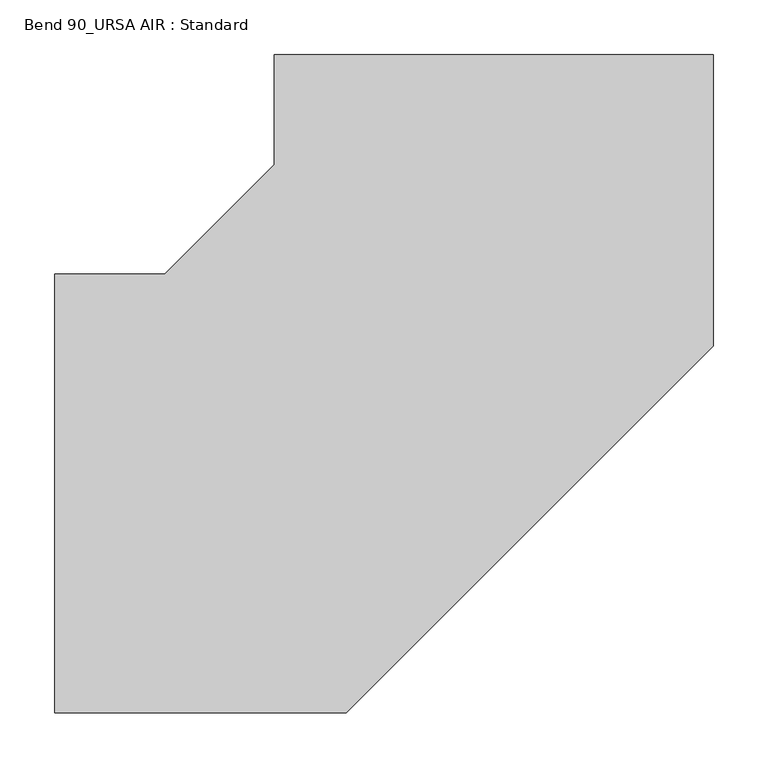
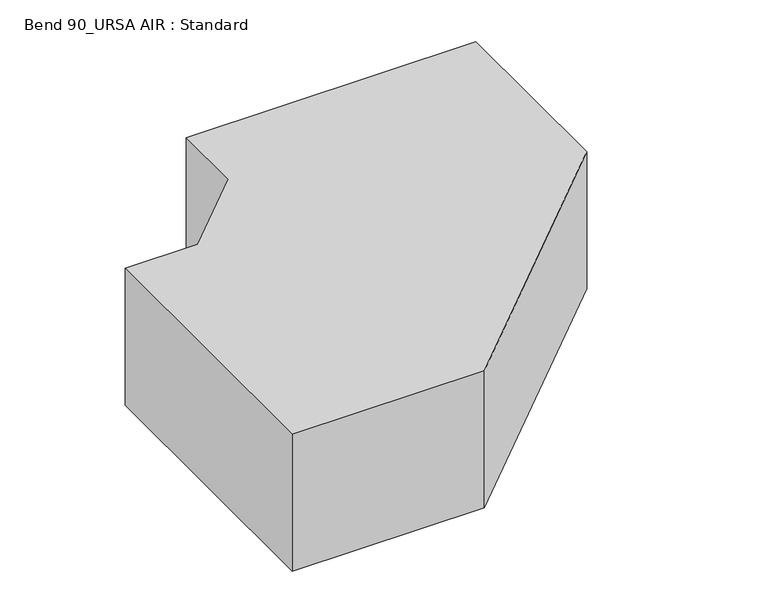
"""IFC4 building model written with IfcOpenShell, lengths in millimetres: duct fitting geometry, Bend 90_URSA AIR : Standard."""

from ifc_helpers import new_model, si_unit, frame, origin, place, context, project, spatial, polyline, outline, extrude, source, transform, mapped, element, save


def bend_90_ursa_air_standard_de543af3(model_context):
    return source(origin(), model_context, "Body", "SweptSolid", [
        extrude(outline(polyline([(-400.0, -200.0), (-400.0, 200.0), (-299.9848989, 200.0), (-200.0, 299.9848989), (-200.0, 400.0), (200.0, 400.0), (200.0, 134.2994739), (-134.2994739, -200.0), (-400.0, -200.0)])), frame((0.0, 0.0, -100.0), z_axis=(0.0, 0.0, 1.0), x_axis=(1.0, 0.0, 0.0)), (0.0, 0.0, 1.0), 200.0),
    ])


if __name__ == "__main__":
    model = new_model("IFC4")
    model_context = context("Model", 3, world=origin())
    ifc_project = project(units=[si_unit("LENGTHUNIT", "METRE", prefix="MILLI")], contexts=[model_context])
    site = spatial("IfcSite", under=ifc_project)
    building = spatial("IfcBuilding", under=site)
    placement = place(None, origin())
    bend_90_ursa_air_standard_shape = bend_90_ursa_air_standard_de543af3(model_context)
    element("IfcDuctFitting", 1, ObjectType="Bend 90_URSA AIR : Standard", at=placement, inside=building, context=model_context, shape_type="MappedRepresentation", body=[
        mapped(bend_90_ursa_air_standard_shape, transform((0.0, 0.0, 0.0), x_axis=(1.0, 0.0, 0.0), y_axis=(0.0, 1.0, 0.0), z_axis=(0.0, 0.0, 1.0))),
    ])
    save(model, "model.ifc")
